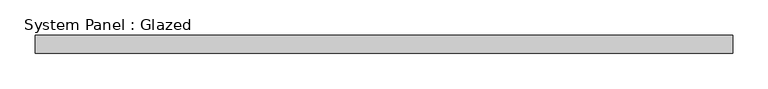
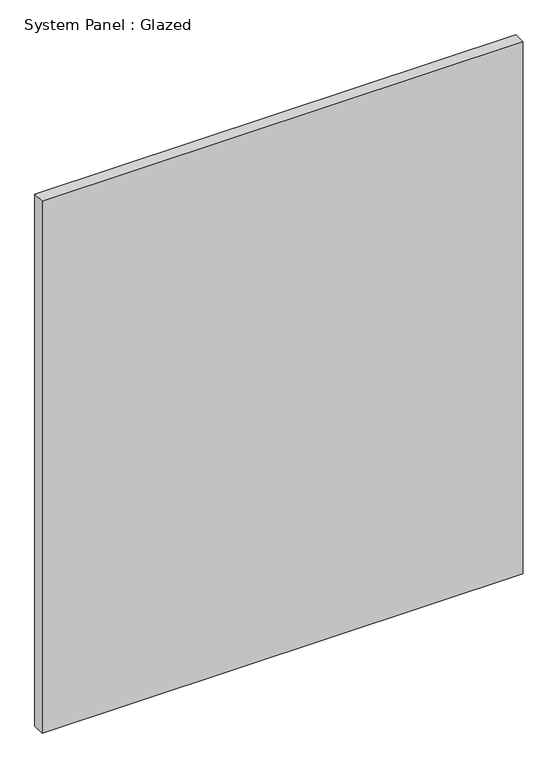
"""IFC4 building model written with IfcOpenShell, lengths in millimetres: plate geometry, System Panel : Glazed."""

from ifc_helpers import new_model, si_unit, origin, origin_with_axes, place, context, project, spatial, polyline, outline, extrude, source, transform, mapped, element, save


def system_panel_glazed_62b14354(model_context):
    return source(origin(), model_context, "Body", "SweptSolid", [
        extrude(outline(polyline([(494.7708333, -44.45), (-494.7708333, -44.45), (-494.7708333, -19.05), (494.7708333, -19.05), (494.7708333, -44.45)])), origin_with_axes(), (0.0, 0.0, 1.0), 1155.7),
    ])


if __name__ == "__main__":
    model = new_model("IFC4")
    model_context = context("Model", 3, world=origin())
    ifc_project = project(units=[si_unit("LENGTHUNIT", "METRE", prefix="MILLI")], contexts=[model_context])
    site = spatial("IfcSite", under=ifc_project)
    building = spatial("IfcBuilding", under=site)
    placement = place(None, origin())
    system_panel_glazed_shape = system_panel_glazed_62b14354(model_context)
    element("IfcPlate", 1, ObjectType="System Panel : Glazed", at=placement, inside=building, context=model_context, shape_type="MappedRepresentation", body=[
        mapped(system_panel_glazed_shape, transform((0.0, 0.0, 0.0), x_axis=(1.0, 0.0, 0.0), y_axis=(0.0, 1.0, 0.0), z_axis=(0.0, 0.0, 1.0))),
    ])
    save(model, "model.ifc")
